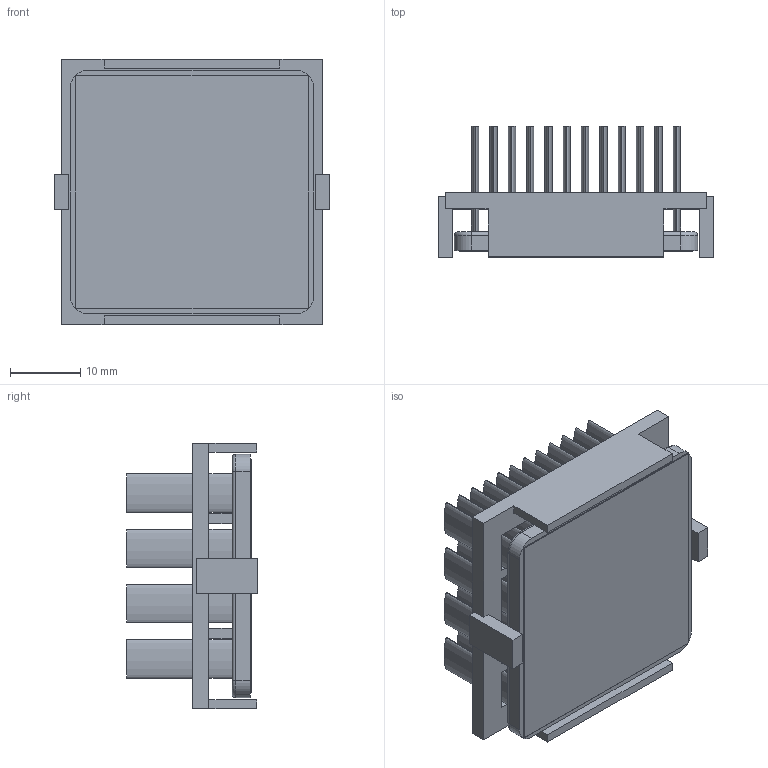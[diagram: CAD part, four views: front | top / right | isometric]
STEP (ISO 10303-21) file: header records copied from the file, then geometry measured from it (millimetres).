
FILE_DESCRIPTION (( 'STEP AP214' ), '1' );
FILE_NAME ('INM35001-18W-2.6O.STEP', '2023-02-20T22:51:29', ( '' ), ( '' ), 'SwSTEP 2.0', 'SolidWorks 2020', '' );
FILE_SCHEMA (( 'AUTOMOTIVE_DESIGN' ));
Length unit declared in the file: inch
Products named in the file (1): INM35001-18W-2.6O
Bounding box: 39.2 x 18.6 x 37.7 mm (x, y, z)
Volume: 8373.3 mm3; surface area: 15965 mm2
Topology: 3 solids, 3 shells, 222 faces, 496 edges, 328 vertices
Faces by surface type: plane 114, bspline 96, cylinder 8, torus 4
Entity records: 9276 total; most frequent: CARTESIAN_POINT 2295, ORIENTED_EDGE 992, DIRECTION 578, EDGE_CURVE 496, VERTEX_POINT 328, VECTOR 284, LINE 284, EDGE_LOOP 272
